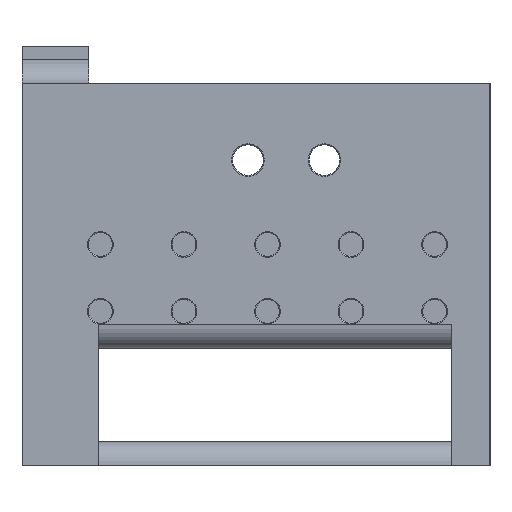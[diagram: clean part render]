
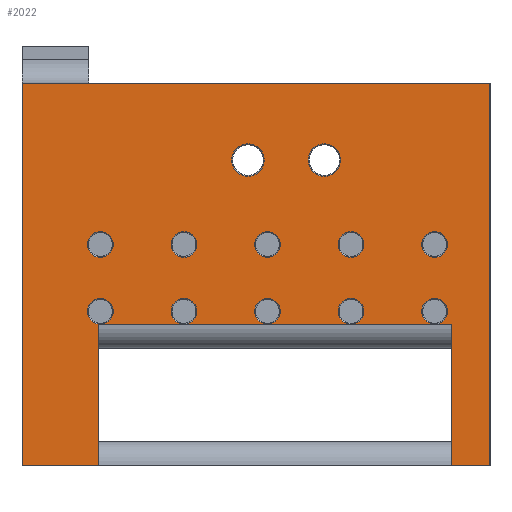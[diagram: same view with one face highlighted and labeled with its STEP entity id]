
A CAD part, left-side view. The second image highlights one B-rep face of the part: STEP entity #2022.
In plain terms, the highlighted planar face has unit normal (-1, 0, 0).
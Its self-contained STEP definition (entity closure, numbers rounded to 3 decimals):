
#61=FACE_BOUND('',#310,.T.);
#62=FACE_BOUND('',#311,.T.);
#63=FACE_BOUND('',#312,.T.);
#64=FACE_BOUND('',#313,.T.);
#65=FACE_BOUND('',#314,.T.);
#66=FACE_BOUND('',#315,.T.);
#67=FACE_BOUND('',#316,.T.);
#68=FACE_BOUND('',#317,.T.);
#69=FACE_BOUND('',#318,.T.);
#70=FACE_BOUND('',#319,.T.);
#71=FACE_BOUND('',#320,.T.);
#72=FACE_BOUND('',#321,.T.);
#100=PLANE('',#2196);
#164=FACE_OUTER_BOUND('',#309,.T.);
#309=EDGE_LOOP('',(#1460,#1461,#1462,#1463,#1464,#1465,#1466,#1467));
#310=EDGE_LOOP('',(#1468));
#311=EDGE_LOOP('',(#1469));
#312=EDGE_LOOP('',(#1470));
#313=EDGE_LOOP('',(#1471));
#314=EDGE_LOOP('',(#1472));
#315=EDGE_LOOP('',(#1473));
#316=EDGE_LOOP('',(#1474));
#317=EDGE_LOOP('',(#1475));
#318=EDGE_LOOP('',(#1476));
#319=EDGE_LOOP('',(#1477));
#320=EDGE_LOOP('',(#1478));
#321=EDGE_LOOP('',(#1479));
#467=LINE('',#3115,#633);
#495=LINE('',#3217,#661);
#496=LINE('',#3218,#662);
#497=LINE('',#3220,#663);
#498=LINE('',#3222,#664);
#499=LINE('',#3224,#665);
#500=LINE('',#3226,#666);
#501=LINE('',#3227,#667);
#633=VECTOR('',#2435,10.);
#661=VECTOR('',#2531,10.);
#662=VECTOR('',#2532,10.);
#663=VECTOR('',#2533,10.);
#664=VECTOR('',#2534,10.);
#665=VECTOR('',#2535,10.);
#666=VECTOR('',#2536,10.);
#667=VECTOR('',#2537,10.);
#819=CIRCLE('',#2192,1.35);
#822=CIRCLE('',#2197,1.35);
#823=CIRCLE('',#2198,1.35);
#824=CIRCLE('',#2199,1.35);
#825=CIRCLE('',#2200,1.35);
#826=CIRCLE('',#2201,1.35);
#827=CIRCLE('',#2202,1.35);
#828=CIRCLE('',#2203,1.35);
#829=CIRCLE('',#2204,1.35);
#830=CIRCLE('',#2205,1.35);
#831=CIRCLE('',#2206,1.7);
#832=CIRCLE('',#2207,1.7);
#915=VERTEX_POINT('',#3089);
#918=VERTEX_POINT('',#3094);
#923=VERTEX_POINT('',#3108);
#926=VERTEX_POINT('',#3113);
#964=VERTEX_POINT('',#3207);
#967=VERTEX_POINT('',#3219);
#968=VERTEX_POINT('',#3221);
#969=VERTEX_POINT('',#3223);
#970=VERTEX_POINT('',#3225);
#971=VERTEX_POINT('',#3228);
#972=VERTEX_POINT('',#3230);
#973=VERTEX_POINT('',#3232);
#974=VERTEX_POINT('',#3234);
#975=VERTEX_POINT('',#3236);
#976=VERTEX_POINT('',#3238);
#977=VERTEX_POINT('',#3240);
#978=VERTEX_POINT('',#3242);
#979=VERTEX_POINT('',#3244);
#980=VERTEX_POINT('',#3246);
#981=VERTEX_POINT('',#3248);
#1106=EDGE_CURVE('',#926,#923,#467,.T.);
#1152=EDGE_CURVE('',#964,#964,#819,.T.);
#1157=EDGE_CURVE('',#918,#923,#495,.T.);
#1158=EDGE_CURVE('',#926,#915,#496,.T.);
#1159=EDGE_CURVE('',#967,#915,#497,.T.);
#1160=EDGE_CURVE('',#967,#968,#498,.T.);
#1161=EDGE_CURVE('',#968,#969,#499,.T.);
#1162=EDGE_CURVE('',#970,#969,#500,.T.);
#1163=EDGE_CURVE('',#918,#970,#501,.T.);
#1164=EDGE_CURVE('',#971,#971,#822,.T.);
#1165=EDGE_CURVE('',#972,#972,#823,.T.);
#1166=EDGE_CURVE('',#973,#973,#824,.T.);
#1167=EDGE_CURVE('',#974,#974,#825,.T.);
#1168=EDGE_CURVE('',#975,#975,#826,.T.);
#1169=EDGE_CURVE('',#976,#976,#827,.T.);
#1170=EDGE_CURVE('',#977,#977,#828,.T.);
#1171=EDGE_CURVE('',#978,#978,#829,.T.);
#1172=EDGE_CURVE('',#979,#979,#830,.T.);
#1173=EDGE_CURVE('',#980,#980,#831,.T.);
#1174=EDGE_CURVE('',#981,#981,#832,.T.);
#1460=ORIENTED_EDGE('',*,*,#1157,.T.);
#1461=ORIENTED_EDGE('',*,*,#1106,.F.);
#1462=ORIENTED_EDGE('',*,*,#1158,.T.);
#1463=ORIENTED_EDGE('',*,*,#1159,.F.);
#1464=ORIENTED_EDGE('',*,*,#1160,.T.);
#1465=ORIENTED_EDGE('',*,*,#1161,.T.);
#1466=ORIENTED_EDGE('',*,*,#1162,.F.);
#1467=ORIENTED_EDGE('',*,*,#1163,.F.);
#1468=ORIENTED_EDGE('',*,*,#1164,.F.);
#1469=ORIENTED_EDGE('',*,*,#1165,.F.);
#1470=ORIENTED_EDGE('',*,*,#1166,.F.);
#1471=ORIENTED_EDGE('',*,*,#1167,.F.);
#1472=ORIENTED_EDGE('',*,*,#1168,.F.);
#1473=ORIENTED_EDGE('',*,*,#1169,.F.);
#1474=ORIENTED_EDGE('',*,*,#1170,.F.);
#1475=ORIENTED_EDGE('',*,*,#1171,.F.);
#1476=ORIENTED_EDGE('',*,*,#1172,.F.);
#1477=ORIENTED_EDGE('',*,*,#1173,.F.);
#1478=ORIENTED_EDGE('',*,*,#1174,.F.);
#1479=ORIENTED_EDGE('',*,*,#1152,.F.);
#2022=ADVANCED_FACE('',(#164,#61,#62,#63,#64,#65,#66,#67,#68,#69,#70,#71,
#72),#100,.T.);
#2192=AXIS2_PLACEMENT_3D('',#3208,#2519,#2520);
#2196=AXIS2_PLACEMENT_3D('',#3216,#2529,#2530);
#2197=AXIS2_PLACEMENT_3D('',#3229,#2538,#2539);
#2198=AXIS2_PLACEMENT_3D('',#3231,#2540,#2541);
#2199=AXIS2_PLACEMENT_3D('',#3233,#2542,#2543);
#2200=AXIS2_PLACEMENT_3D('',#3235,#2544,#2545);
#2201=AXIS2_PLACEMENT_3D('',#3237,#2546,#2547);
#2202=AXIS2_PLACEMENT_3D('',#3239,#2548,#2549);
#2203=AXIS2_PLACEMENT_3D('',#3241,#2550,#2551);
#2204=AXIS2_PLACEMENT_3D('',#3243,#2552,#2553);
#2205=AXIS2_PLACEMENT_3D('',#3245,#2554,#2555);
#2206=AXIS2_PLACEMENT_3D('',#3247,#2556,#2557);
#2207=AXIS2_PLACEMENT_3D('',#3249,#2558,#2559);
#2435=DIRECTION('',(0.,1.,0.));
#2519=DIRECTION('center_axis',(-1.,0.,0.));
#2520=DIRECTION('ref_axis',(0.,0.,
1.));
#2529=DIRECTION('center_axis',(-1.,0.,0.));
#2530=DIRECTION('ref_axis',(0.,0.,
1.));
#2531=DIRECTION('',(0.,0.,1.));
#2532=DIRECTION('',(0.,0.,-1.));
#2533=DIRECTION('',(0.,1.,0.));
#2534=DIRECTION('',(0.,0.,1.));
#2535=DIRECTION('',(0.,1.,0.));
#2536=DIRECTION('',(0.,0.,1.));
#2537=DIRECTION('',(0.,1.,0.));
#2538=DIRECTION('center_axis',(-1.,0.,0.));
#2539=DIRECTION('ref_axis',(0.,0.,
1.));
#2540=DIRECTION('center_axis',(-1.,0.,0.));
#2541=DIRECTION('ref_axis',(0.,0.,
1.));
#2542=DIRECTION('center_axis',(-1.,0.,0.));
#2543=DIRECTION('ref_axis',(0.,0.,
1.));
#2544=DIRECTION('center_axis',(-1.,0.,0.));
#2545=DIRECTION('ref_axis',(0.,0.,
1.));
#2546=DIRECTION('center_axis',(-1.,0.,0.));
#2547=DIRECTION('ref_axis',(0.,0.,
1.));
#2548=DIRECTION('center_axis',(-1.,0.,0.));
#2549=DIRECTION('ref_axis',(0.,0.,
1.));
#2550=DIRECTION('center_axis',(-1.,0.,0.));
#2551=DIRECTION('ref_axis',(0.,0.,
1.));
#2552=DIRECTION('center_axis',(-1.,0.,0.));
#2553=DIRECTION('ref_axis',(0.,0.,
1.));
#2554=DIRECTION('center_axis',(-1.,0.,0.));
#2555=DIRECTION('ref_axis',(0.,0.,
1.));
#2556=DIRECTION('center_axis',(-1.,0.,0.));
#2557=DIRECTION('ref_axis',(0.,0.,
-1.));
#2558=DIRECTION('center_axis',(-1.,0.,0.));
#2559=DIRECTION('ref_axis',(0.,0.,-1.));
#3089=CARTESIAN_POINT('',(-22.758,-30.798,41.843));
#3094=CARTESIAN_POINT('',(-22.758,6.202,41.843));
#3108=CARTESIAN_POINT('',(-22.758,6.202,56.61));
#3113=CARTESIAN_POINT('',(-22.758,-30.798,56.61));
#3115=CARTESIAN_POINT('',(-22.758,6.202,56.61));
#3207=CARTESIAN_POINT('',(-22.758,-29.,56.65));
#3208=CARTESIAN_POINT('Origin',(-22.758,-29.,58.));
#3216=CARTESIAN_POINT('Origin',(-22.758,6.202,41.843));
#3217=CARTESIAN_POINT('',(-22.758,6.202,45.534));
#3218=CARTESIAN_POINT('',(-22.758,-30.798,45.534));
#3219=CARTESIAN_POINT('',(-22.758,-34.798,41.843));
#3220=CARTESIAN_POINT('',(-22.758,6.202,41.843));
#3221=CARTESIAN_POINT('',(-22.758,-34.798,81.843));
#3222=CARTESIAN_POINT('',(-22.758,-34.798,76.823));
#3223=CARTESIAN_POINT('',(-22.758,14.202,81.843));
#3224=CARTESIAN_POINT('',(-22.758,6.202,81.843));
#3225=CARTESIAN_POINT('',(-22.758,14.202,41.843));
#3226=CARTESIAN_POINT('',(-22.758,14.202,51.843));
#3227=CARTESIAN_POINT('',(-22.758,6.202,41.843));
#3228=CARTESIAN_POINT('',(-22.758,6.,63.65));
#3229=CARTESIAN_POINT('Origin',(-22.758,6.,65.));
#3230=CARTESIAN_POINT('',(-22.758,-2.75,63.65));
#3231=CARTESIAN_POINT('Origin',(-22.758,-2.75,65.));
#3232=CARTESIAN_POINT('',(-22.758,-11.5,63.65));
#3233=CARTESIAN_POINT('Origin',(-22.758,-11.5,65.));
#3234=CARTESIAN_POINT('',(-22.758,-20.25,63.65));
#3235=CARTESIAN_POINT('Origin',(-22.758,-20.25,65.));
#3236=CARTESIAN_POINT('',(-22.758,-29.,63.65));
#3237=CARTESIAN_POINT('Origin',(-22.758,-29.,65.));
#3238=CARTESIAN_POINT('',(-22.758,6.,56.65));
#3239=CARTESIAN_POINT('Origin',(-22.758,6.,58.));
#3240=CARTESIAN_POINT('',(-22.758,-2.75,56.65));
#3241=CARTESIAN_POINT('Origin',(-22.758,-2.75,58.));
#3242=CARTESIAN_POINT('',(-22.758,-11.5,56.65));
#3243=CARTESIAN_POINT('Origin',(-22.758,-11.5,58.));
#3244=CARTESIAN_POINT('',(-22.758,-20.25,56.65));
#3245=CARTESIAN_POINT('Origin',(-22.758,-20.25,58.));
#3246=CARTESIAN_POINT('',(-22.758,-17.456,75.537));
#3247=CARTESIAN_POINT('Origin',(-22.758,-17.456,73.837));
#3248=CARTESIAN_POINT('',(-22.758,-9.456,75.537));
#3249=CARTESIAN_POINT('Origin',(-22.758,-9.456,73.837));
